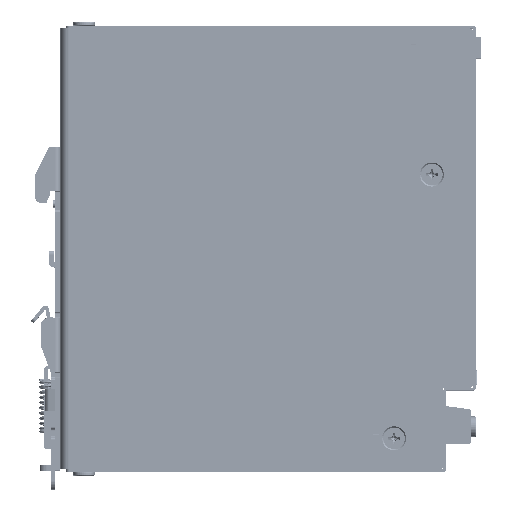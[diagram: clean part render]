
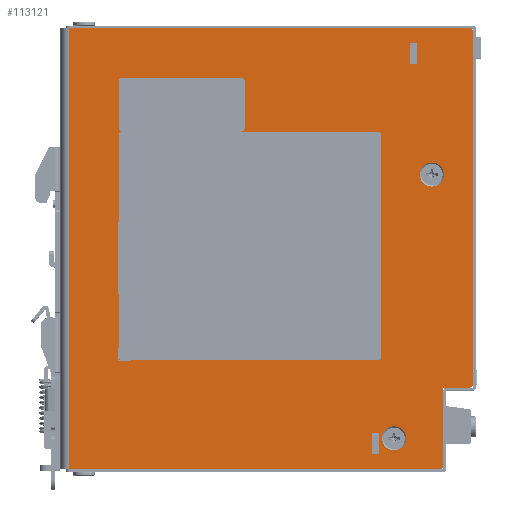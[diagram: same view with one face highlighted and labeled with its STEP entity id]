
A CAD part, top view. The second image highlights one B-rep face of the part: STEP entity #113121.
In plain terms, the highlighted planar face has unit normal (0, 0, 1).
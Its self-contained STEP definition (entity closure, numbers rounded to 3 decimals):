
#104826=DIRECTION('',(0.,-1.,0.));
#104827=VECTOR('',#104826,122.4);
#104828=CARTESIAN_POINT('',(1.,61.2,30.));
#104829=LINE('',#104828,#104827);
#104856=CARTESIAN_POINT('',(112.1,60.2,30.));
#104857=DIRECTION('',(0.,0.,1.));
#104858=DIRECTION('',(1.,0.,0.));
#104859=AXIS2_PLACEMENT_3D('',#104856,#104857,#104858);
#104864=DIRECTION('',(0.,1.,0.));
#104865=VECTOR('',#104864,97.8);
#104866=CARTESIAN_POINT('',(113.1,-37.6,30.));
#104867=LINE('',#104866,#104865);
#104871=CARTESIAN_POINT('',(112.1,-37.6,30.));
#104872=DIRECTION('',(0.,0.,1.));
#104873=DIRECTION('',(0.,-1.,0.));
#104874=AXIS2_PLACEMENT_3D('',#104871,#104872,#104873);
#104879=DIRECTION('',(-1.,0.,0.));
#104880=VECTOR('',#104879,7.2);
#104881=CARTESIAN_POINT('',(112.1,-38.6,30.));
#104882=LINE('',#104881,#104880);
#104886=DIRECTION('',(0.,1.,0.));
#104887=VECTOR('',#104886,21.6);
#104888=CARTESIAN_POINT('',(104.9,-60.2,30.));
#104889=LINE('',#104888,#104887);
#104893=CARTESIAN_POINT('',(103.9,-60.2,30.));
#104894=DIRECTION('',(0.,0.,1.));
#104895=DIRECTION('',(0.,-1.,0.));
#104896=AXIS2_PLACEMENT_3D('',#104893,#104894,#104895);
#104901=DIRECTION('',(1.,0.,0.));
#104902=VECTOR('',#104901,102.9);
#104903=CARTESIAN_POINT('',(1.,-61.2,30.));
#104904=LINE('',#104903,#104902);
#104908=DIRECTION('',(-1.,0.,0.));
#104909=VECTOR('',#104908,111.1);
#104910=CARTESIAN_POINT('',(112.1,61.2,30.));
#104911=LINE('',#104910,#104909);
#104915=CARTESIAN_POINT('',(101.7,20.6,30.));
#104916=DIRECTION('',(0.,0.,1.));
#104917=DIRECTION('',(-1.,0.,0.));
#104918=AXIS2_PLACEMENT_3D('',#104915,#104916,#104917);
#104923=CARTESIAN_POINT('',(101.7,20.6,30.));
#104924=DIRECTION('',(0.,0.,1.));
#104925=DIRECTION('',(1.,0.,0.));
#104926=AXIS2_PLACEMENT_3D('',#104923,#104924,#104925);
#104931=CARTESIAN_POINT('',(91.2,-52.7,30.));
#104932=DIRECTION('',(0.,0.,1.));
#104933=DIRECTION('',(-1.,0.,0.));
#104934=AXIS2_PLACEMENT_3D('',#104931,#104932,#104933);
#104939=CARTESIAN_POINT('',(91.2,-52.7,30.));
#104940=DIRECTION('',(0.,0.,1.));
#104941=DIRECTION('',(1.,0.,0.));
#104942=AXIS2_PLACEMENT_3D('',#104939,#104940,#104941);
#104947=DIRECTION('',(1.,0.,0.));
#104948=VECTOR('',#104947,1.9);
#104949=CARTESIAN_POINT('',(95.65,57.1,30.));
#104950=LINE('',#104949,#104948);
#104954=DIRECTION('',(0.,1.,0.));
#104955=VECTOR('',#104954,5.8);
#104956=CARTESIAN_POINT('',(95.65,51.3,30.));
#104957=LINE('',#104956,#104955);
#104961=DIRECTION('',(-1.,0.,0.));
#104962=VECTOR('',#104961,1.9);
#104963=CARTESIAN_POINT('',(97.55,51.3,30.));
#104964=LINE('',#104963,#104962);
#104968=DIRECTION('',(0.,-1.,0.));
#104969=VECTOR('',#104968,5.8);
#104970=CARTESIAN_POINT('',(97.55,57.1,30.));
#104971=LINE('',#104970,#104969);
#104975=DIRECTION('',(1.,0.,0.));
#104976=VECTOR('',#104975,1.9);
#104977=CARTESIAN_POINT('',(85.15,-51.3,30.));
#104978=LINE('',#104977,#104976);
#104982=DIRECTION('',(0.,1.,0.));
#104983=VECTOR('',#104982,5.8);
#104984=CARTESIAN_POINT('',(85.15,-57.1,30.));
#104985=LINE('',#104984,#104983);
#104989=DIRECTION('',(-1.,0.,0.));
#104990=VECTOR('',#104989,1.9);
#104991=CARTESIAN_POINT('',(87.05,-57.1,30.));
#104992=LINE('',#104991,#104990);
#104996=DIRECTION('',(0.,-1.,0.));
#104997=VECTOR('',#104996,5.8);
#104998=CARTESIAN_POINT('',(87.05,-51.3,30.));
#104999=LINE('',#104998,#104997);
#105003=DIRECTION('',(0.,-1.,0.));
#105004=VECTOR('',#105003,20.);
#105005=CARTESIAN_POINT('',(14.5,7.3,30.));
#105006=LINE('',#105005,#105004);
#105010=DIRECTION('',(1.,0.,0.));
#105011=VECTOR('',#105010,0.2);
#105012=CARTESIAN_POINT('',(14.5,-12.7,30.));
#105013=LINE('',#105012,#105011);
#105017=DIRECTION('',(0.,1.,0.));
#105018=VECTOR('',#105017,20.);
#105019=CARTESIAN_POINT('',(14.7,-12.7,30.));
#105020=LINE('',#105019,#105018);
#105024=DIRECTION('',(-1.,0.,0.));
#105025=VECTOR('',#105024,0.2);
#105026=CARTESIAN_POINT('',(14.7,7.3,30.));
#105027=LINE('',#105026,#105025);
#105031=DIRECTION('',(0.,-1.,0.));
#105032=VECTOR('',#105031,3.5);
#105033=CARTESIAN_POINT('',(14.5,-27.7,30.));
#105034=LINE('',#105033,#105032);
#105038=DIRECTION('',(1.,0.,0.));
#105039=VECTOR('',#105038,3.5);
#105040=CARTESIAN_POINT('',(14.5,-31.2,30.));
#105041=LINE('',#105040,#105039);
#105045=DIRECTION('',(0.,1.,0.));
#105046=VECTOR('',#105045,0.2);
#105047=CARTESIAN_POINT('',(18.,-31.2,30.));
#105048=LINE('',#105047,#105046);
#105052=DIRECTION('',(-1.,0.,0.));
#105053=VECTOR('',#105052,3.3);
#105054=CARTESIAN_POINT('',(18.,-31.,30.));
#105055=LINE('',#105054,#105053);
#105059=DIRECTION('',(0.,1.,0.));
#105060=VECTOR('',#105059,3.3);
#105061=CARTESIAN_POINT('',(14.7,-31.,30.));
#105062=LINE('',#105061,#105060);
#105066=DIRECTION('',(-1.,0.,0.));
#105067=VECTOR('',#105066,0.2);
#105068=CARTESIAN_POINT('',(14.7,-27.7,30.));
#105069=LINE('',#105068,#105067);
#106770=CARTESIAN_POINT('',(1.,61.2,30.));
#106771=CARTESIAN_POINT('',(1.,-61.2,30.));
#106772=VERTEX_POINT('',#106770);
#106773=VERTEX_POINT('',#106771);
#106995=CARTESIAN_POINT('',(104.9,-38.6,30.));
#106997=VERTEX_POINT('',#106995);
#107197=CARTESIAN_POINT('',(113.1,60.2,30.));
#107198=CARTESIAN_POINT('',(112.1,61.2,30.));
#107199=VERTEX_POINT('',#107197);
#107200=VERTEX_POINT('',#107198);
#107217=CARTESIAN_POINT('',(112.1,-38.6,30.));
#107218=VERTEX_POINT('',#107217);
#107219=CARTESIAN_POINT('',(113.1,-37.6,30.));
#107220=VERTEX_POINT('',#107219);
#107241=CARTESIAN_POINT('',(103.9,-61.2,30.));
#107242=VERTEX_POINT('',#107241);
#107243=CARTESIAN_POINT('',(104.9,-60.2,30.));
#107244=VERTEX_POINT('',#107243);
#107395=CARTESIAN_POINT('',(98.35,20.6,30.));
#107396=VERTEX_POINT('',#107395);
#107399=CARTESIAN_POINT('',(105.05,20.6,30.));
#107400=VERTEX_POINT('',#107399);
#107409=CARTESIAN_POINT('',(95.65,57.1,30.));
#107410=CARTESIAN_POINT('',(97.55,57.1,30.));
#107411=VERTEX_POINT('',#107409);
#107412=VERTEX_POINT('',#107410);
#107413=CARTESIAN_POINT('',(97.55,51.3,30.));
#107414=VERTEX_POINT('',#107413);
#107415=CARTESIAN_POINT('',(95.65,51.3,30.));
#107416=VERTEX_POINT('',#107415);
#107465=CARTESIAN_POINT('',(85.15,-51.3,30.));
#107466=CARTESIAN_POINT('',(87.05,-51.3,30.));
#107467=VERTEX_POINT('',#107465);
#107468=VERTEX_POINT('',#107466);
#107469=CARTESIAN_POINT('',(87.05,-57.1,30.));
#107470=VERTEX_POINT('',#107469);
#107471=CARTESIAN_POINT('',(85.15,-57.1,30.));
#107472=VERTEX_POINT('',#107471);
#107653=CARTESIAN_POINT('',(14.5,7.3,30.));
#107654=CARTESIAN_POINT('',(14.5,-12.7,30.));
#107655=VERTEX_POINT('',#107653);
#107656=VERTEX_POINT('',#107654);
#107657=CARTESIAN_POINT('',(14.7,-12.7,30.));
#107658=VERTEX_POINT('',#107657);
#107659=CARTESIAN_POINT('',(14.7,7.3,30.));
#107660=VERTEX_POINT('',#107659);
#107661=CARTESIAN_POINT('',(14.5,-27.7,30.));
#107662=CARTESIAN_POINT('',(14.5,-31.2,30.));
#107663=VERTEX_POINT('',#107661);
#107664=VERTEX_POINT('',#107662);
#107665=CARTESIAN_POINT('',(18.,-31.2,30.));
#107666=VERTEX_POINT('',#107665);
#107667=CARTESIAN_POINT('',(18.,-31.,30.));
#107668=VERTEX_POINT('',#107667);
#107669=CARTESIAN_POINT('',(14.7,-31.,30.));
#107670=VERTEX_POINT('',#107669);
#107671=CARTESIAN_POINT('',(14.7,-27.7,30.));
#107672=VERTEX_POINT('',#107671);
#107679=CARTESIAN_POINT('',(87.85,-52.7,30.));
#107680=VERTEX_POINT('',#107679);
#107683=CARTESIAN_POINT('',(94.55,-52.7,30.));
#107684=VERTEX_POINT('',#107683);
#113041=CARTESIAN_POINT('',(-1.5,-61.2,30.));
#113042=DIRECTION('',(0.,0.,1.));
#113043=DIRECTION('',(0.,-1.,0.));
#113044=AXIS2_PLACEMENT_3D('',#113041,#113042,#113043);
#113045=PLANE('',#113044);
#113047=ORIENTED_EDGE('',*,*,#113046,.F.);
#113049=ORIENTED_EDGE('',*,*,#113048,.F.);
#113051=ORIENTED_EDGE('',*,*,#113050,.F.);
#113053=ORIENTED_EDGE('',*,*,#113052,.T.);
#113055=ORIENTED_EDGE('',*,*,#113054,.F.);
#113057=ORIENTED_EDGE('',*,*,#113056,.F.);
#113059=ORIENTED_EDGE('',*,*,#113058,.F.);
#113060=ORIENTED_EDGE('',*,*,#113020,.F.);
#113062=ORIENTED_EDGE('',*,*,#113061,.F.);
#113063=EDGE_LOOP('',(#113047,#113049,#113051,#113053,#113055,#113057,#113059,
#113060,#113062));
#113064=FACE_OUTER_BOUND('',#113063,.F.);
#113066=ORIENTED_EDGE('',*,*,#113065,.T.);
#113068=ORIENTED_EDGE('',*,*,#113067,.T.);
#113069=EDGE_LOOP('',(#113066,#113068));
#113070=FACE_BOUND('',#113069,.F.);
#113072=ORIENTED_EDGE('',*,*,#113071,.T.);
#113074=ORIENTED_EDGE('',*,*,#113073,.T.);
#113075=EDGE_LOOP('',(#113072,#113074));
#113076=FACE_BOUND('',#113075,.F.);
#113078=ORIENTED_EDGE('',*,*,#113077,.F.);
#113080=ORIENTED_EDGE('',*,*,#113079,.F.);
#113082=ORIENTED_EDGE('',*,*,#113081,.F.);
#113084=ORIENTED_EDGE('',*,*,#113083,.F.);
#113085=EDGE_LOOP('',(#113078,#113080,#113082,#113084));
#113086=FACE_BOUND('',#113085,.F.);
#113088=ORIENTED_EDGE('',*,*,#113087,.F.);
#113090=ORIENTED_EDGE('',*,*,#113089,.F.);
#113092=ORIENTED_EDGE('',*,*,#113091,.F.);
#113094=ORIENTED_EDGE('',*,*,#113093,.F.);
#113095=EDGE_LOOP('',(#113088,#113090,#113092,#113094));
#113096=FACE_BOUND('',#113095,.F.);
#113098=ORIENTED_EDGE('',*,*,#113097,.T.);
#113100=ORIENTED_EDGE('',*,*,#113099,.T.);
#113102=ORIENTED_EDGE('',*,*,#113101,.T.);
#113104=ORIENTED_EDGE('',*,*,#113103,.T.);
#113105=EDGE_LOOP('',(#113098,#113100,#113102,#113104));
#113106=FACE_BOUND('',#113105,.F.);
#113108=ORIENTED_EDGE('',*,*,#113107,.T.);
#113110=ORIENTED_EDGE('',*,*,#113109,.T.);
#113112=ORIENTED_EDGE('',*,*,#113111,.T.);
#113114=ORIENTED_EDGE('',*,*,#113113,.T.);
#113116=ORIENTED_EDGE('',*,*,#113115,.T.);
#113118=ORIENTED_EDGE('',*,*,#113117,.T.);
#113119=EDGE_LOOP('',(#113108,#113110,#113112,#113114,#113116,#113118));
#113120=FACE_BOUND('',#113119,.F.);
#104860=CIRCLE('',#104859,1.);
#104875=CIRCLE('',#104874,1.);
#104897=CIRCLE('',#104896,1.);
#104919=CIRCLE('',#104918,3.35);
#104927=CIRCLE('',#104926,3.35);
#104935=CIRCLE('',#104934,3.35);
#104943=CIRCLE('',#104942,3.35);
#113020=EDGE_CURVE('',#106772,#106773,#104829,.T.);
#113046=EDGE_CURVE('',#107199,#107200,#104860,.T.);
#113048=EDGE_CURVE('',#107220,#107199,#104867,.T.);
#113050=EDGE_CURVE('',#107218,#107220,#104875,.T.);
#113052=EDGE_CURVE('',#107218,#106997,#104882,.T.);
#113054=EDGE_CURVE('',#107244,#106997,#104889,.T.);
#113056=EDGE_CURVE('',#107242,#107244,#104897,.T.);
#113058=EDGE_CURVE('',#106773,#107242,#104904,.T.);
#113061=EDGE_CURVE('',#107200,#106772,#104911,.T.);
#113065=EDGE_CURVE('',#107396,#107400,#104919,.T.);
#113067=EDGE_CURVE('',#107400,#107396,#104927,.T.);
#113071=EDGE_CURVE('',#107680,#107684,#104935,.T.);
#113073=EDGE_CURVE('',#107684,#107680,#104943,.T.);
#113077=EDGE_CURVE('',#107411,#107412,#104950,.T.);
#113079=EDGE_CURVE('',#107416,#107411,#104957,.T.);
#113081=EDGE_CURVE('',#107414,#107416,#104964,.T.);
#113083=EDGE_CURVE('',#107412,#107414,#104971,.T.);
#113087=EDGE_CURVE('',#107467,#107468,#104978,.T.);
#113089=EDGE_CURVE('',#107472,#107467,#104985,.T.);
#113091=EDGE_CURVE('',#107470,#107472,#104992,.T.);
#113093=EDGE_CURVE('',#107468,#107470,#104999,.T.);
#113097=EDGE_CURVE('',#107655,#107656,#105006,.T.);
#113099=EDGE_CURVE('',#107656,#107658,#105013,.T.);
#113101=EDGE_CURVE('',#107658,#107660,#105020,.T.);
#113103=EDGE_CURVE('',#107660,#107655,#105027,.T.);
#113107=EDGE_CURVE('',#107663,#107664,#105034,.T.);
#113109=EDGE_CURVE('',#107664,#107666,#105041,.T.);
#113111=EDGE_CURVE('',#107666,#107668,#105048,.T.);
#113113=EDGE_CURVE('',#107668,#107670,#105055,.T.);
#113115=EDGE_CURVE('',#107670,#107672,#105062,.T.);
#113117=EDGE_CURVE('',#107672,#107663,#105069,.T.);
#113121=ADVANCED_FACE('',(#113064,#113070,#113076,#113086,#113096,#113106,
#113120),#113045,.T.);
